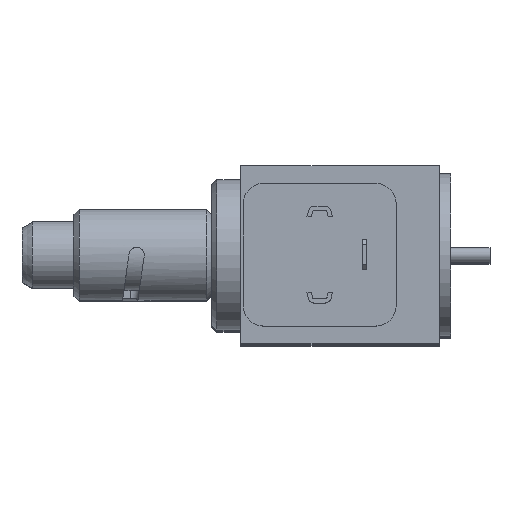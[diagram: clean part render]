
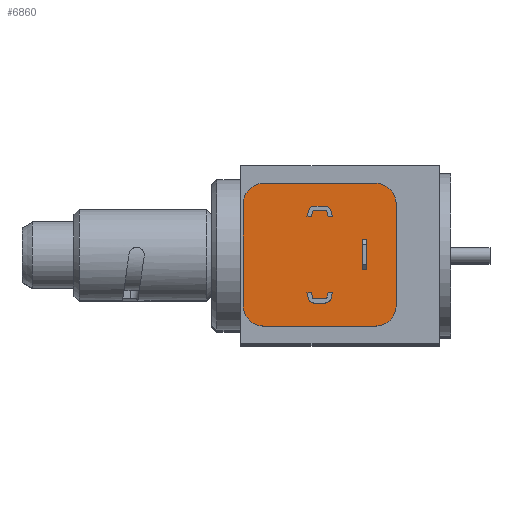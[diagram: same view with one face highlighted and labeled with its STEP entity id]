
A CAD part, top view. The second image highlights one B-rep face of the part: STEP entity #6860.
In plain terms, the highlighted planar face has unit normal (0, 0, 1).
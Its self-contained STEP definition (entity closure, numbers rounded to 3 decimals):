
#6860=ADVANCED_FACE('', (#6870), #6880, .T.);
#29810=AXIS2_PLACEMENT_3D('Ax2Pl3d', #29820, #29830, #29840);
#29970=AXIS2_PLACEMENT_3D('Ax2Pl3d', #29980, #29990, #30000);
#30130=AXIS2_PLACEMENT_3D('Ax2Pl3d', #30140, #30150, #30160);
#30290=AXIS2_PLACEMENT_3D('Ax2Pl3d', #30300, #30310, #30320);
#30410=AXIS2_PLACEMENT_3D('Ax2Pl3d', #30420, #30430, #30440);
#62770=CARTESIAN_POINT('', (0.5,7.5,285.5))
;
#62800=CARTESIAN_POINT('', (4.5,3.5,285.5));
#29820=CARTESIAN_POINT('HicPkt', (4.5,7.5,
285.5));
#62840=CARTESIAN_POINT('', (26.5,3.5,285.5));
#62850=CARTESIAN_POINT('', (26.5,3.5,285.5));
#62880=CARTESIAN_POINT('', (30.5,7.5,285.5));
#29980=CARTESIAN_POINT('HicPkt', (26.5,7.5,285.5));
#62920=CARTESIAN_POINT('', (30.5,27.5,285.5));
#62930=CARTESIAN_POINT('', (30.5,27.5,285.5));
#62960=CARTESIAN_POINT('', (26.5,31.5,285.5));
#30140=CARTESIAN_POINT('HicPkt', (26.5,27.5,285.5));
#63000=CARTESIAN_POINT('', (4.5,31.5,285.5));
#63010=CARTESIAN_POINT('', (4.5,31.5,285.5))
;
#63040=CARTESIAN_POINT('', (0.5,27.5,285.5))
;
#30300=CARTESIAN_POINT('HicPkt', (4.5,27.5,
285.5));
#63050=CARTESIAN_POINT('', (0.5,7.5,285.5))
;
#30420=CARTESIAN_POINT('HicPkt', (0.5,7.5,
285.5));
#72220=CIRCLE('Circle', #29810, 4.);
#72240=CIRCLE('Circle', #29970, 4.);
#72260=CIRCLE('Circle', #30130, 4.);
#72280=CIRCLE('Circle', #30290, 4.);
#29830=DIRECTION('Axis', (0.,0.,1.));
#29840=DIRECTION('RefDirection', (1.,0.,0.));
#108190=DIRECTION('', (1.,0.,0.));
#29990=DIRECTION('Axis', (0.,0.,1.));
#30000=DIRECTION('RefDirection', (1.,0.,0.));
#108230=DIRECTION('', (0.,1.,0.));
#30150=DIRECTION('Axis', (0.,0.,1.));
#30160=DIRECTION('RefDirection', (1.,0.,0.));
#108270=DIRECTION('', (-1.,0.,0.));
#30310=DIRECTION('Axis', (0.,0.,1.));
#30320=DIRECTION('RefDirection', (1.,0.,0.));
#108290=DIRECTION('', (0.,-1.,0.));
#30430=DIRECTION('Axis', (0.,0.,1.));
#30440=DIRECTION('RefDirection', (1.,0.,0.));
#118520=EDGE_CURVE('', #118450, #118500, #72220, .T.);
#118590=EDGE_CURVE('', #118500, #118570, #118600, .T.);
#118660=EDGE_CURVE('', #118570, #118640, #72240, .T.);
#118730=EDGE_CURVE('', #118640, #118710, #118740, .T.);
#118800=EDGE_CURVE('', #118710, #118780, #72260, .T.);
#118870=EDGE_CURVE('', #118780, #118850, #118880, .T.);
#118940=EDGE_CURVE('', #118850, #118920, #72280, .T.);
#118950=EDGE_CURVE('', #118920, #118450, #118960, .T.);
#141510=EDGE_LOOP('Edge_loop', (#141520,#141530,#141540,#141550,#141560,
#141570,#141580,#141590));
#6870=FACE_OUTER_BOUND('Face_outer_bound', #141510, .T.);
#118600=LINE('Line', #62850, #169770);
#118740=LINE('Line', #62930, #169810);
#118880=LINE('Line', #63010, #169850);
#118960=LINE('Line', #63050, #169870);
#141520=ORIENTED_EDGE('', *, *, #118520, .T.);
#141530=ORIENTED_EDGE('', *, *, #118590, .T.);
#141540=ORIENTED_EDGE('', *, *, #118660, .T.);
#141550=ORIENTED_EDGE('', *, *, #118730, .T.);
#141560=ORIENTED_EDGE('', *, *, #118800, .T.);
#141570=ORIENTED_EDGE('', *, *, #118870, .T.);
#141580=ORIENTED_EDGE('', *, *, #118940, .T.);
#141590=ORIENTED_EDGE('', *, *, #118950, .T.);
#6880=PLANE('Plane', #30410);
#169770=VECTOR('', #108190, 22.);
#169810=VECTOR('', #108230, 20.);
#169850=VECTOR('', #108270, 22.);
#169870=VECTOR('', #108290, 20.);
#118450=VERTEX_POINT('', #62770);
#118500=VERTEX_POINT('', #62800);
#118570=VERTEX_POINT('', #62840);
#118640=VERTEX_POINT('', #62880);
#118710=VERTEX_POINT('', #62920);
#118780=VERTEX_POINT('', #62960);
#118850=VERTEX_POINT('', #63000);
#118920=VERTEX_POINT('', #63040);
